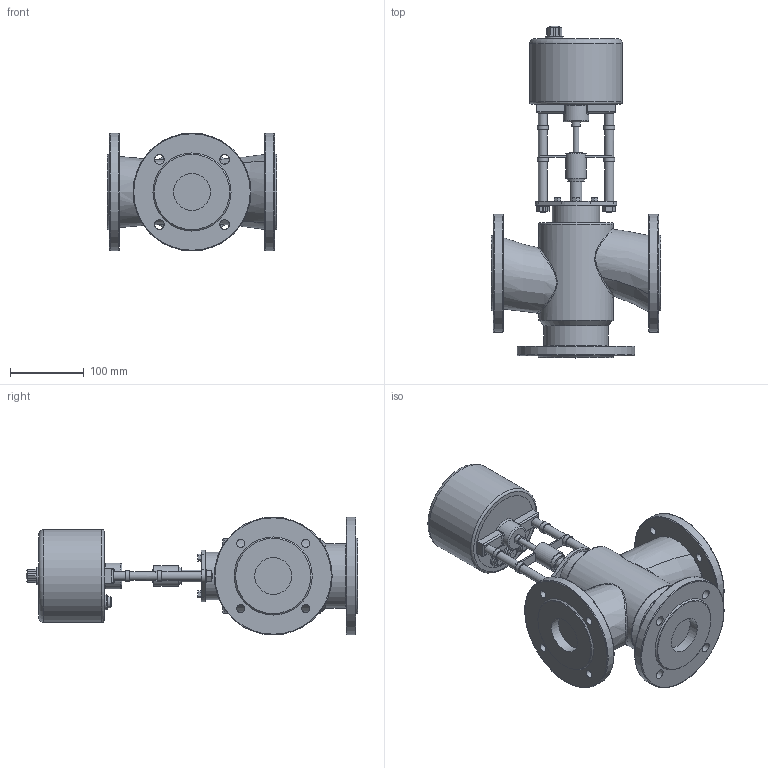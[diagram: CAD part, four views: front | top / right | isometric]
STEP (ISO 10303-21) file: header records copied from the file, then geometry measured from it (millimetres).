
FILE_DESCRIPTION(/* description */ (''),/* implementation_level */ '2;1');
FILE_NAME(/* name */ 'D:\Работа\work by\2017.01.17. клапаны для КПСР 3-хходоввые\Готовые файлы\ES 06\iges\ду 50.stp',/* time_stamp */ '2017-02-19T18:17:13+03:00',/* author */ ('Admin'),/* organization */ ('unknown'),/* preprocessor_version */ 'ST-DEVELOPER v16.1',/* originating_system */ 'Autodesk Inventor 2016',/* authorisation */ '');
FILE_SCHEMA (('AUTOMOTIVE_DESIGN { 1 0 10303 214 3 1 1 }'));
Length unit declared in the file: millimetre
Products named in the file (1): ду 50
Bounding box: 230 x 450.4 x 160 mm (x, y, z)
Volume: 4099655.2 mm3; surface area: 315339.6 mm2
Topology: 9 solids, 11 shells, 306 faces, 687 edges, 430 vertices
Faces by surface type: plane 162, cylinder 81, cone 27, torus 23, bspline 12, sphere 1
Full cylindrical faces by diameter (mm): 7.507 x2, 8 x3, 8.4 x4, 9.22 x1, 11 x8, 12 x7, 13 x4, 15 x4, 16 x1, 16.893 x2, 20.262 x3, 24 x1, 28 x1, 30 x1, 34.989 x1, 40 x1, 50 x3, 64 x1, 87.4 x1, 101.2 x1, 102 x3, 125.738 x1, 160 x3
Entity records: 9562 total; most frequent: CARTESIAN_POINT 3185, DIRECTION 1340, ORIENTED_EDGE 1120, EDGE_CURVE 558, AXIS2_PLACEMENT_3D 541, EDGE_LOOP 468, VERTEX_POINT 403, FACE_OUTER_BOUND 306
